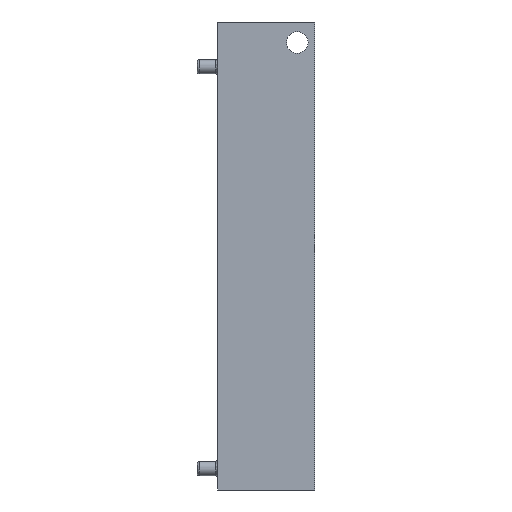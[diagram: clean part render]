
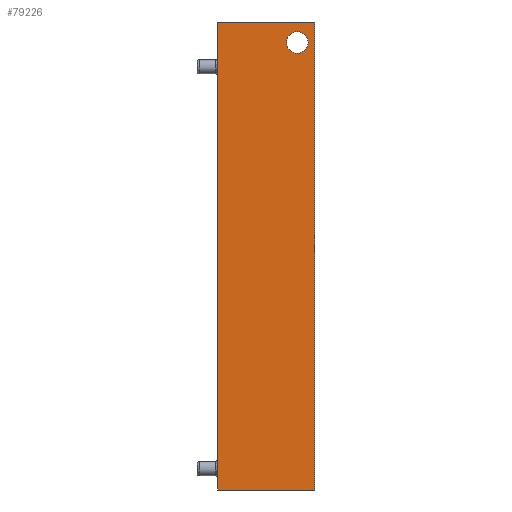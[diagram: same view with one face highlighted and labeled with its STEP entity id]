
A CAD part, front view. The second image highlights one B-rep face of the part: STEP entity #79226.
In plain terms, the highlighted planar face has unit normal (0, -1, 0).
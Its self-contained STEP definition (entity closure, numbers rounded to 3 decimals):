
#184 = DIRECTION ( 'NONE',  ( -1., 0., 0. ) ) ;
#366 = FACE_OUTER_BOUND ( 'NONE', #1552, .T. ) ;
#510 = ORIENTED_EDGE ( 'NONE', *, *, #46245, .F. ) ;
#1552 = EDGE_LOOP ( 'NONE', ( #510, #13806, #51094, #75887 ) ) ;
#3500 = ORIENTED_EDGE ( 'NONE', *, *, #20607, .F. ) ;
#10616 = CARTESIAN_POINT ( 'NONE',  ( 114., 0., 23.7 ) ) ;
#11058 = DIRECTION ( 'NONE',  ( 0., 0., -1. ) ) ;
#11075 = CARTESIAN_POINT ( 'NONE',  ( 114., 0., 23.7 ) ) ;
#13806 = ORIENTED_EDGE ( 'NONE', *, *, #43531, .T. ) ;
#14658 = VECTOR ( 'NONE', #34986, 1000. ) ;
#14934 = CARTESIAN_POINT ( 'NONE',  ( 0., 0., 23.7 ) ) ;
#15365 = DIRECTION ( 'NONE',  ( -1., 0., 0. ) ) ;
#15675 = VERTEX_POINT ( 'NONE', #55054 ) ;
#17079 = FACE_BOUND ( 'NONE', #86523, .T. ) ;
#17783 = DIRECTION ( 'NONE',  ( -1., 0., 0. ) ) ;
#20607 = EDGE_CURVE ( 'NONE', #23287, #23287, #25484, .T. ) ;
#23287 = VERTEX_POINT ( 'NONE', #39907 ) ;
#25484 = CIRCLE ( 'NONE', #91474, 2.625 ) ;
#29108 = CARTESIAN_POINT ( 'NONE',  ( 0., 0., 0. ) ) ;
#29999 = CARTESIAN_POINT ( 'NONE',  ( 0., 0., 23.7 ) ) ;
#30037 = EDGE_CURVE ( 'NONE', #84024, #51211, #40549, .T. ) ;
#32083 = LINE ( 'NONE', #14934, #32349 ) ;
#32349 = VECTOR ( 'NONE', #15365, 1000. ) ;
#32556 = LINE ( 'NONE', #35653, #49271 ) ;
#32774 = CARTESIAN_POINT ( 'NONE',  ( 0., 0., 23.7 ) ) ;
#33383 = AXIS2_PLACEMENT_3D ( 'NONE', #10616, #60507, #17783 ) ;
#34200 = VECTOR ( 'NONE', #11058, 1000. ) ;
#34299 = LINE ( 'NONE', #11075, #34200 ) ;
#34986 = DIRECTION ( 'NONE',  ( 0., 0., -1. ) ) ;
#35653 = CARTESIAN_POINT ( 'NONE',  ( 114., 0., 0. ) ) ;
#39907 = CARTESIAN_POINT ( 'NONE',  ( 5., 0., 22.025 ) ) ;
#40549 = LINE ( 'NONE', #32774, #14658 ) ;
#43531 = EDGE_CURVE ( 'NONE', #46667, #84024, #32083, .T. ) ;
#46245 = EDGE_CURVE ( 'NONE', #46667, #15675, #34299, .T. ) ;
#46667 = VERTEX_POINT ( 'NONE', #60631 ) ;
#49271 = VECTOR ( 'NONE', #184, 1000. ) ;
#51094 = ORIENTED_EDGE ( 'NONE', *, *, #30037, .T. ) ;
#51211 = VERTEX_POINT ( 'NONE', #29108 ) ;
#55054 = CARTESIAN_POINT ( 'NONE',  ( 114., 0., 0. ) ) ;
#58784 = EDGE_CURVE ( 'NONE', #15675, #51211, #32556, .T. ) ;
#60507 = DIRECTION ( 'NONE',  ( 0., 1., 0. ) ) ;
#60631 = CARTESIAN_POINT ( 'NONE',  ( 114., 0., 23.7 ) ) ;
#62799 = DIRECTION ( 'NONE',  ( 0., 0., 1. ) ) ;
#62880 = DIRECTION ( 'NONE',  ( 0., -1., 0. ) ) ;
#63188 = CARTESIAN_POINT ( 'NONE',  ( 5., 0., 19.4 ) ) ;
#74519 = PLANE ( 'NONE',  #33383 ) ;
#75887 = ORIENTED_EDGE ( 'NONE', *, *, #58784, .F. ) ;
#79226 = ADVANCED_FACE ( 'NONE', ( #366, #17079 ), #74519, .F. ) ;
#84024 = VERTEX_POINT ( 'NONE', #29999 ) ;
#86523 = EDGE_LOOP ( 'NONE', ( #3500 ) ) ;
#91474 = AXIS2_PLACEMENT_3D ( 'NONE', #63188, #62880, #62799 ) ;
